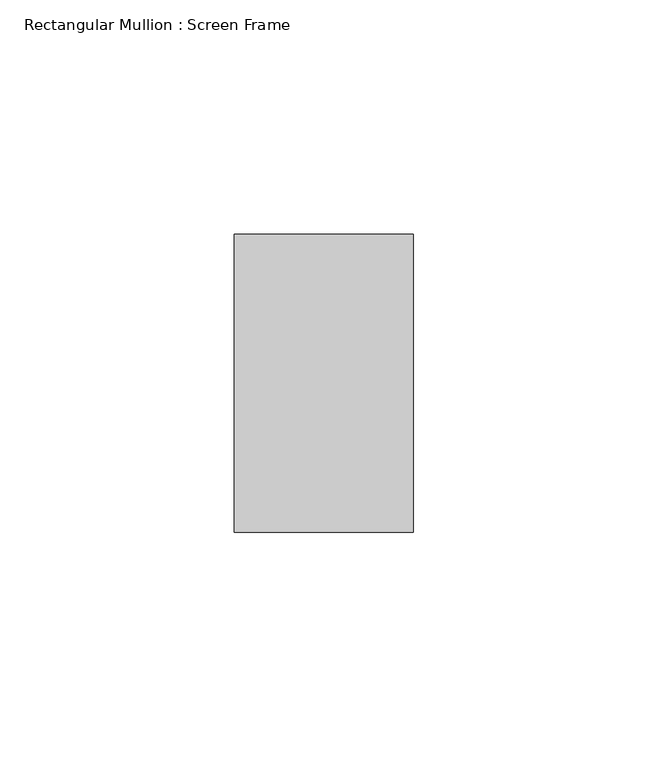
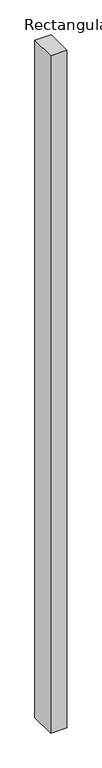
"""IFC4 building model written with IfcOpenShell, lengths in millimetres: member geometry, Rectangular Mullion : Screen Frame."""

from ifc_helpers import new_model, si_unit, frame, origin, place, context, project, spatial, polyline, outline, extrude, source, transform, mapped, element, save


def rectangular_mullion_screen_frame_176d3cdc(model_context):
    return source(origin(), model_context, "Body", "SweptSolid", [
        extrude(outline(polyline([(0.0, 31.75), (0.0, -31.75), (-38.1, -31.75), (-38.1, 31.75), (0.0, 31.75)])), frame((0.0, 0.0, -1677.6500867), z_axis=(0.0, 0.0, 1.0), x_axis=(1.0, 0.0, 0.0)), (0.0, 0.0, 1.0), 1677.6500867),
    ])


if __name__ == "__main__":
    model = new_model("IFC4")
    model_context = context("Model", 3, world=origin())
    ifc_project = project(units=[si_unit("LENGTHUNIT", "METRE", prefix="MILLI")], contexts=[model_context])
    site = spatial("IfcSite", under=ifc_project)
    building = spatial("IfcBuilding", under=site)
    placement = place(None, origin())
    rectangular_mullion_screen_frame_shape = rectangular_mullion_screen_frame_176d3cdc(model_context)
    element("IfcMember", 1, ObjectType="Rectangular Mullion : Screen Frame", at=placement, inside=building, context=model_context, shape_type="MappedRepresentation", body=[
        mapped(rectangular_mullion_screen_frame_shape, transform((0.0, 0.0, 0.0), x_axis=(1.0, 0.0, 0.0), y_axis=(0.0, 1.0, 0.0), z_axis=(0.0, 0.0, 1.0))),
    ])
    save(model, "model.ifc")
